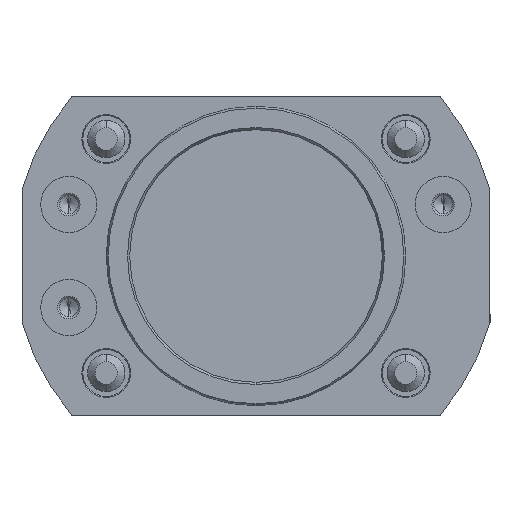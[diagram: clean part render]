
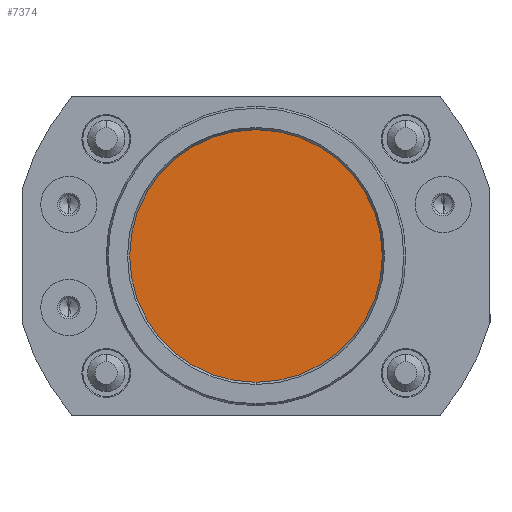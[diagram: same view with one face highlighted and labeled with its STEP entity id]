
A CAD part, front view. The second image highlights one B-rep face of the part: STEP entity #7374.
In plain terms, the highlighted planar face has unit normal (0, -1, 0).
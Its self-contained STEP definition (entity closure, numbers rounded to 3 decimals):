
#7374 = ADVANCED_FACE ( 'NONE', ( #8338 ), #8348, .T. ) ;
#7376 = EDGE_LOOP ( 'NONE', ( #7378, #7421 ) ) ;
#7378 = ORIENTED_EDGE ( 'NONE', *, *, #7379, .F. ) ;
#7379 = EDGE_CURVE ( 'NONE', #7432, #7437, #8383, .T. ) ;
#7421 = ORIENTED_EDGE ( 'NONE', *, *, #7430, .F. ) ;
#7430 = EDGE_CURVE ( 'NONE', #7437, #7432, #8437, .T. ) ;
#7432 = VERTEX_POINT ( 'NONE', #8485 ) ;
#7437 = VERTEX_POINT ( 'NONE', #8486 ) ;
#8275 = DIRECTION ( 'NONE',  ( 0., -1., 0. ) ) ;
#8276 = CARTESIAN_POINT ( 'NONE',  ( 0., 3.1, 0. ) ) ;
#8336 = AXIS2_PLACEMENT_3D ( 'NONE', #8276, #8275, #8391 ) ;
#8338 = FACE_OUTER_BOUND ( 'NONE', #7376, .T. ) ;
#8348 = PLANE ( 'NONE',  #8336 ) ;
#8379 = DIRECTION ( 'NONE',  ( 0., 0., 1. ) ) ;
#8380 = DIRECTION ( 'NONE',  ( 0., 1., 0. ) ) ;
#8381 = CARTESIAN_POINT ( 'NONE',  ( 0., 3.1, 0. ) ) ;
#8382 = AXIS2_PLACEMENT_3D ( 'NONE', #8381, #8380, #8379 ) ;
#8383 = CIRCLE ( 'NONE', #8382, 13.5 ) ;
#8391 = DIRECTION ( 'NONE',  ( 0., 0., -1. ) ) ;
#8437 = CIRCLE ( 'NONE', #8487, 13.5 ) ;
#8481 = DIRECTION ( 'NONE',  ( 0., 0., 1. ) ) ;
#8482 = DIRECTION ( 'NONE',  ( 0., 1., 0. ) ) ;
#8483 = CARTESIAN_POINT ( 'NONE',  ( 0., 3.1, 0. ) ) ;
#8485 = CARTESIAN_POINT ( 'NONE',  ( 0., 3.1, 13.5 ) ) ;
#8486 = CARTESIAN_POINT ( 'NONE',  ( 0., 3.1, -13.5 ) ) ;
#8487 = AXIS2_PLACEMENT_3D ( 'NONE', #8483, #8482, #8481 ) ;
